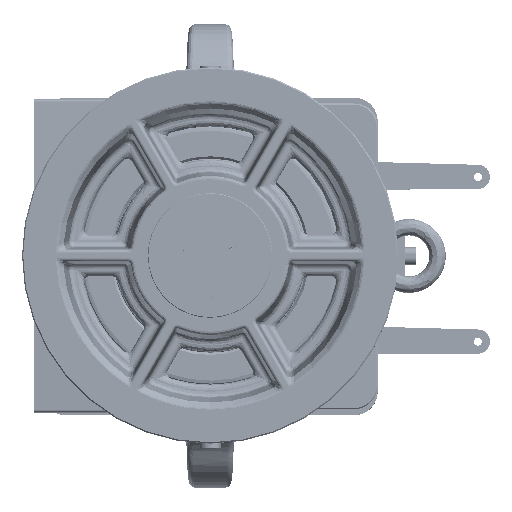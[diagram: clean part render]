
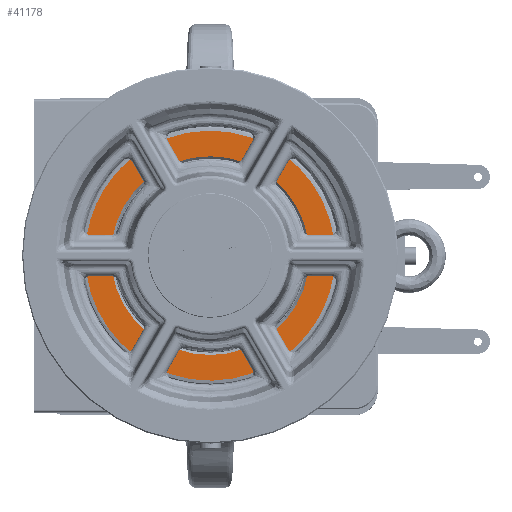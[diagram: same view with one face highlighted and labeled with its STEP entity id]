
A CAD part, top view. The second image highlights one B-rep face of the part: STEP entity #41178.
In plain terms, the highlighted planar face has unit normal (0, 0, 1).
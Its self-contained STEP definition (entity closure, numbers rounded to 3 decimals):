
#8618 = DIRECTION ( 'NONE',  ( 1., 0., 0. ) ) ;
#8758 = CARTESIAN_POINT ( 'NONE',  ( -206.953, 78.504, 174. ) ) ;
#20337 = ORIENTED_EDGE ( 'NONE', *, *, #141127, .F. ) ;
#39836 = CARTESIAN_POINT ( 'NONE',  ( -22.767, 184.844, 174. ) ) ;
#41178 = ADVANCED_FACE ( 'NONE', ( #106772, #205916 ), #56577, .T. ) ;
#44869 = EDGE_LOOP ( 'NONE', ( #83484, #106018 ) ) ;
#46713 = AXIS2_PLACEMENT_3D ( 'NONE', #173333, #125381, #70902 ) ;
#46832 = AXIS2_PLACEMENT_3D ( 'NONE', #140489, #157934, #8618 ) ;
#49741 = EDGE_CURVE ( 'NONE', #63947, #49818, #145096, .T. ) ;
#49818 = VERTEX_POINT ( 'NONE', #174572 ) ;
#56577 = PLANE ( 'NONE',  #46832 ) ;
#57203 = CARTESIAN_POINT ( 'NONE',  ( -238.283, -13.589, 174. ) ) ;
#57269 =( BOUNDED_CURVE ( )  B_SPLINE_CURVE ( 3, ( #187611, #88378, #190826, #8758 ),
 .UNSPECIFIED., .F., .T. ) 
 B_SPLINE_CURVE_WITH_KNOTS ( ( 4, 4 ),
 ( 0., 1. ),
 .UNSPECIFIED. ) 
 CURVE ( )  GEOMETRIC_REPRESENTATION_ITEM ( )  RATIONAL_B_SPLINE_CURVE ( ( 1., 0.333, 0.333, 1. ) ) 
 REPRESENTATION_ITEM ( '' )  );
#63947 = VERTEX_POINT ( 'NONE', #57203 ) ;
#67534 = CIRCLE ( 'NONE', #46713, 84.5 ) ;
#70902 = DIRECTION ( 'NONE',  ( 1., 0., 0. ) ) ;
#72564 = CARTESIAN_POINT ( 'NONE',  ( -206.953, 78.504, 174. ) ) ;
#73237 = DIRECTION ( 'NONE',  ( 0., 0., -1. ) ) ;
#83484 = ORIENTED_EDGE ( 'NONE', *, *, #161586, .T. ) ;
#88378 = CARTESIAN_POINT ( 'NONE',  ( -284.799, -212.021, 174. ) ) ;
#105365 = ORIENTED_EDGE ( 'NONE', *, *, #144465, .F. ) ;
#106018 = ORIENTED_EDGE ( 'NONE', *, *, #49741, .T. ) ;
#106772 = FACE_OUTER_BOUND ( 'NONE', #199694, .T. ) ;
#112815 = CARTESIAN_POINT ( 'NONE',  ( -100.613, -105.682, 174. ) ) ;
#123618 = CARTESIAN_POINT ( 'NONE',  ( -100.613, -105.682, 174. ) ) ;
#125381 = DIRECTION ( 'NONE',  ( 0., 0., -1. ) ) ;
#132413 = CARTESIAN_POINT ( 'NONE',  ( 83.573, 0.658, 174. ) ) ;
#140489 = CARTESIAN_POINT ( 'NONE',  ( -245.876, -66.759, 174. ) ) ;
#141127 = EDGE_CURVE ( 'NONE', #197770, #181658, #57269, .T. ) ;
#144465 = EDGE_CURVE ( 'NONE', #181658, #197770, #145179, .T. ) ;
#145096 = CIRCLE ( 'NONE', #166111, 84.5 ) ;
#145179 =( BOUNDED_CURVE ( )  B_SPLINE_CURVE ( 3, ( #72564, #39836, #132413, #112815 ),
 .UNSPECIFIED., .F., .T. ) 
 B_SPLINE_CURVE_WITH_KNOTS ( ( 4, 4 ),
 ( 0., 1. ),
 .UNSPECIFIED. ) 
 CURVE ( )  GEOMETRIC_REPRESENTATION_ITEM ( )  RATIONAL_B_SPLINE_CURVE ( ( 1., 0.333, 0.333, 1. ) ) 
 REPRESENTATION_ITEM ( '' )  );
#157934 = DIRECTION ( 'NONE',  ( 0., 0., 1. ) ) ;
#158245 = CARTESIAN_POINT ( 'NONE',  ( -153.783, -13.589, 174. ) ) ;
#161586 = EDGE_CURVE ( 'NONE', #49818, #63947, #67534, .T. ) ;
#166111 = AXIS2_PLACEMENT_3D ( 'NONE', #158245, #73237, #208417 ) ;
#173333 = CARTESIAN_POINT ( 'NONE',  ( -153.783, -13.589, 174. ) ) ;
#174572 = CARTESIAN_POINT ( 'NONE',  ( -69.283, -13.589, 174. ) ) ;
#181658 = VERTEX_POINT ( 'NONE', #212030 ) ;
#187611 = CARTESIAN_POINT ( 'NONE',  ( -100.613, -105.682, 174. ) ) ;
#190826 = CARTESIAN_POINT ( 'NONE',  ( -391.139, -27.836, 174. ) ) ;
#197770 = VERTEX_POINT ( 'NONE', #123618 ) ;
#199694 = EDGE_LOOP ( 'NONE', ( #20337, #105365 ) ) ;
#205916 = FACE_BOUND ( 'NONE', #44869, .T. ) ;
#208417 = DIRECTION ( 'NONE',  ( 1., 0., 0. ) ) ;
#212030 = CARTESIAN_POINT ( 'NONE',  ( -206.953, 78.504, 174. ) ) ;
